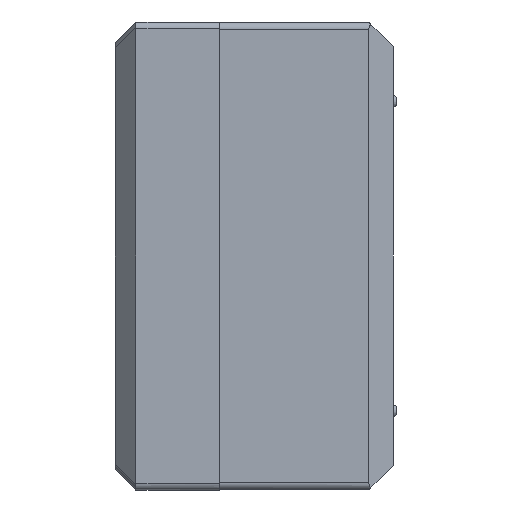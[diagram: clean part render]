
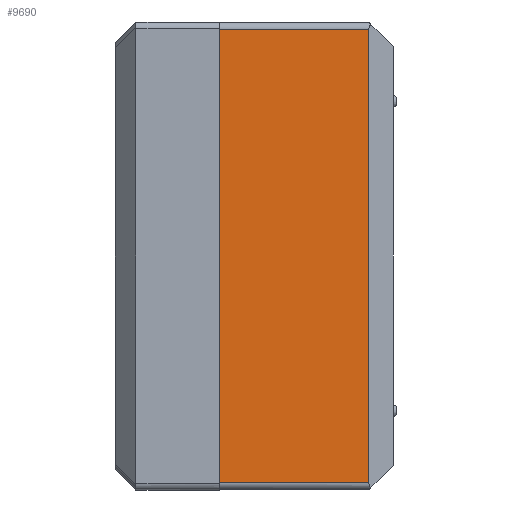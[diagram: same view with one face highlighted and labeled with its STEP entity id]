
A CAD part, left-side view. The second image highlights one B-rep face of the part: STEP entity #9690.
In plain terms, the highlighted planar face has unit normal (-1, 0, 0).
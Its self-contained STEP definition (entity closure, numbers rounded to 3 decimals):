
#335 = FACE_OUTER_BOUND ( 'NONE', #11627, .T. ) ;
#337 = CARTESIAN_POINT ( 'NONE',  ( -62.75, 0., -32.625 ) ) ;
#685 = ORIENTED_EDGE ( 'NONE', *, *, #10990, .F. ) ;
#716 = CARTESIAN_POINT ( 'NONE',  ( -62.75, -21.5, 32.625 ) ) ;
#757 = EDGE_CURVE ( 'NONE', #6803, #3102, #17026, .T. ) ;
#1048 = CARTESIAN_POINT ( 'NONE',  ( -62.75, -25., -32.625 ) ) ;
#1210 = EDGE_CURVE ( 'NONE', #11257, #3102, #1424, .T. ) ;
#1424 = LINE ( 'NONE', #9480, #8988 ) ;
#2240 = LINE ( 'NONE', #6222, #16924 ) ;
#2330 = PLANE ( 'NONE',  #5291 ) ;
#2499 = DIRECTION ( 'NONE',  ( 0., 1., 0. ) ) ;
#2647 = LINE ( 'NONE', #1048, #6006 ) ;
#2947 = ORIENTED_EDGE ( 'NONE', *, *, #3899, .T. ) ;
#3102 = VERTEX_POINT ( 'NONE', #11288 ) ;
#3411 = DIRECTION ( 'NONE',  ( 0., 0., 1. ) ) ;
#3899 = EDGE_CURVE ( 'NONE', #4844, #6803, #2240, .T. ) ;
#4844 = VERTEX_POINT ( 'NONE', #8475 ) ;
#5224 = CARTESIAN_POINT ( 'NONE',  ( -62.75, -25., 32.625 ) ) ;
#5291 = AXIS2_PLACEMENT_3D ( 'NONE', #13703, #16566, #8045 ) ;
#6006 = VECTOR ( 'NONE', #2499, 1000. ) ;
#6222 = CARTESIAN_POINT ( 'NONE',  ( -62.75, -21.5, -32.625 ) ) ;
#6803 = VERTEX_POINT ( 'NONE', #716 ) ;
#8045 = DIRECTION ( 'NONE',  ( 0., 0., 1. ) ) ;
#8475 = CARTESIAN_POINT ( 'NONE',  ( -62.75, -21.5, -32.625 ) ) ;
#8988 = VECTOR ( 'NONE', #18396, 1000. ) ;
#9480 = CARTESIAN_POINT ( 'NONE',  ( -62.75, 0., -32.625 ) ) ;
#9690 = ADVANCED_FACE ( 'NONE', ( #335 ), #2330, .T. ) ;
#9877 = VECTOR ( 'NONE', #15184, 1000. ) ;
#10535 = ORIENTED_EDGE ( 'NONE', *, *, #1210, .F. ) ;
#10990 = EDGE_CURVE ( 'NONE', #4844, #11257, #2647, .T. ) ;
#11257 = VERTEX_POINT ( 'NONE', #337 ) ;
#11288 = CARTESIAN_POINT ( 'NONE',  ( -62.75, 0., 32.625 ) ) ;
#11627 = EDGE_LOOP ( 'NONE', ( #685, #2947, #17181, #10535 ) ) ;
#13703 = CARTESIAN_POINT ( 'NONE',  ( -62.75, -25., -32.625 ) ) ;
#15184 = DIRECTION ( 'NONE',  ( 0., 1., 0. ) ) ;
#16566 = DIRECTION ( 'NONE',  ( -1., 0., 0. ) ) ;
#16924 = VECTOR ( 'NONE', #3411, 1000. ) ;
#17026 = LINE ( 'NONE', #5224, #9877 ) ;
#17181 = ORIENTED_EDGE ( 'NONE', *, *, #757, .T. ) ;
#18396 = DIRECTION ( 'NONE',  ( 0., 0., 1. ) ) ;
